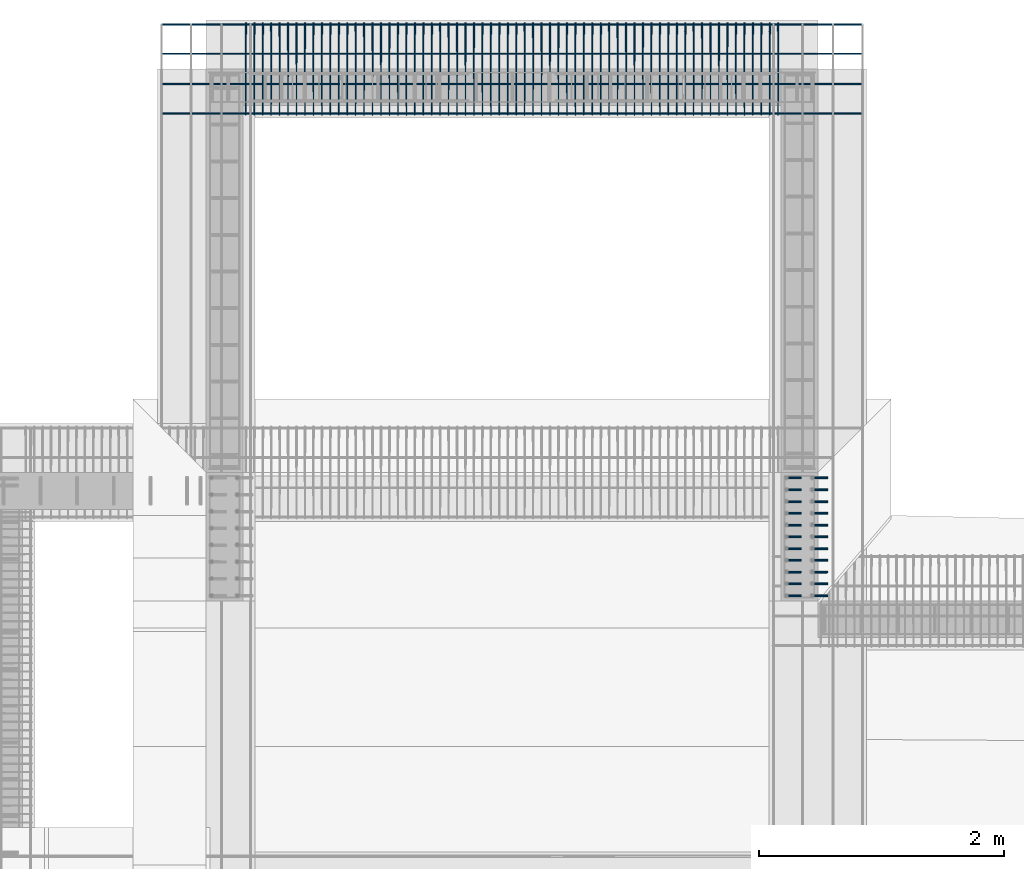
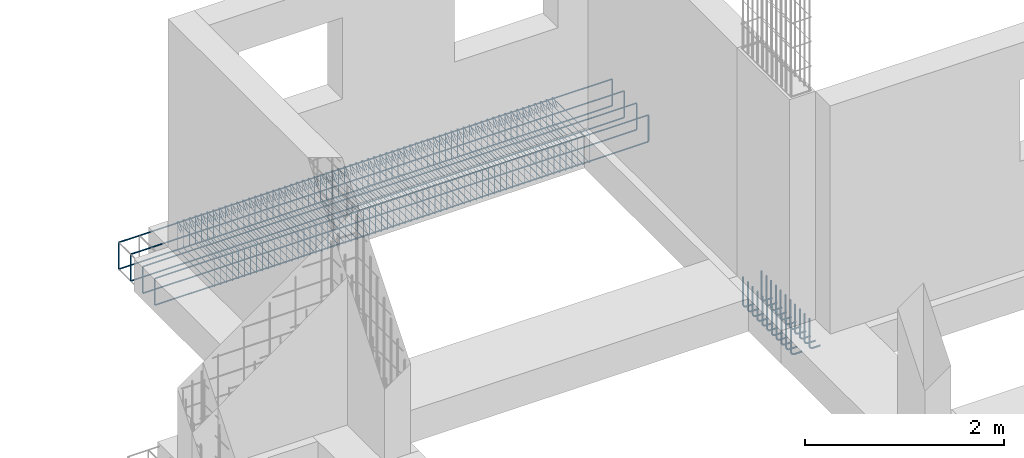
# One storey, part 12 of 15: 3 reinforcing bars.
"""IFC4 building model written with IfcOpenShell, lengths in metres."""

from ifc_helpers import new_model, entity, si_unit, origin_with_axes, place, context, project, spatial, source, transform, mapped, element, save


model = new_model("IFC4")

# Units and contexts
model_context = context("Model", 3, precision=1e-05, world=origin_with_axes())
ifc_project = project(units=[si_unit("LENGTHUNIT", "METRE"), si_unit("AREAUNIT", "SQUARE_METRE"), si_unit("VOLUMEUNIT", "CUBIC_METRE"), si_unit("MASSUNIT", "GRAM", prefix="KILO"), si_unit("TIMEUNIT", "SECOND"), si_unit("PLANEANGLEUNIT", "RADIAN"), si_unit("SOLIDANGLEUNIT", "STERADIAN"), si_unit("THERMODYNAMICTEMPERATUREUNIT", "DEGREE_CELSIUS")], contexts=[model_context])

# Site, building, storey
placement_1 = place(None, origin_with_axes())
site = spatial("IfcSite", under=ifc_project, at=placement_1, Name="Italia", CompositionType="ELEMENT")
building = spatial("IfcBuilding", under=site, at=placement_1, Name="Bifamiliare", CompositionType="ELEMENT")
storey = spatial("IfcBuildingStorey", under=building, at=placement_1, Name="Storey 0", CompositionType="ELEMENT", Elevation=0.0)

# Reinforcing bars
shared_shape_1 = source(origin_with_axes(), model_context, "Body", "AdvancedSweptSolid", [
    entity("IfcSweptDiskSolid", entity("IfcIndexedPolyCurve", entity("IfcCartesianPointList3D", [[10.882, 12.557, -0.375], [10.797, 12.557, -0.375], [10.7817, 12.557, -0.371955], [10.7687, 12.557, -0.363284], [10.76, 12.557, -0.350307], [10.757, 12.557, -0.335], [10.757, 12.557, 0.0]]), [entity("IfcLineIndex", [1, 2]), entity("IfcLineIndex", [2, 3]), entity("IfcLineIndex", [3, 4]), entity("IfcLineIndex", [4, 5]), entity("IfcLineIndex", [5, 6]), entity("IfcLineIndex", [6, 7])], False), 0.01),
])
placement_2 = place(placement_1, origin_with_axes())
reinforcing_bar_1_placement = place(placement_2, origin_with_axes())
element("IfcReinforcingBar", 1, at=reinforcing_bar_1_placement, inside=storey, BarLength=0.482429, CrossSectionArea=0.00031416, NominalDiameter=0.02, context=model_context, shape_type="MappedRepresentation", body=[
    mapped(shared_shape_1, transform((0.0, -0.964001, 0.0), x_axis=(1.0, 0.0, 0.0), y_axis=(0.0, 1.0, 0.0), z_axis=(0.0, 0.0, 1.0), scale=1.0)),
    mapped(shared_shape_1, transform((0.0, -0.866, 0.0), x_axis=(1.0, 0.0, 0.0), y_axis=(0.0, 1.0, 0.0), z_axis=(0.0, 0.0, 1.0), scale=1.0)),
    mapped(shared_shape_1, transform((0.0, -0.674001, 0.0), x_axis=(1.0, 0.0, 0.0), y_axis=(0.0, 1.0, 0.0), z_axis=(0.0, 0.0, 1.0), scale=1.0)),
    mapped(shared_shape_1, transform((0.0, -0.578, 0.0), x_axis=(1.0, 0.0, 0.0), y_axis=(0.0, 1.0, 0.0), z_axis=(0.0, 0.0, 1.0), scale=1.0)),
    mapped(shared_shape_1, transform((0.0, -0.386001, 0.0), x_axis=(1.0, 0.0, 0.0), y_axis=(0.0, 1.0, 0.0), z_axis=(0.0, 0.0, 1.0), scale=1.0)),
    mapped(shared_shape_1, transform((0.0, -0.77, 0.0), x_axis=(1.0, 0.0, 0.0), y_axis=(0.0, 1.0, 0.0), z_axis=(0.0, 0.0, 1.0), scale=1.0)),
    mapped(shared_shape_1, transform((0.0, -0.0980005, 0.0), x_axis=(1.0, 0.0, 0.0), y_axis=(0.0, 1.0, 0.0), z_axis=(0.0, 0.0, 1.0), scale=1.0)),
    mapped(shared_shape_1, transform((0.0, -0.482, 0.0), x_axis=(1.0, 0.0, 0.0), y_axis=(0.0, 1.0, 0.0), z_axis=(0.0, 0.0, 1.0), scale=1.0)),
    mapped(shared_shape_1, transform((0.0, -0.29, 0.0), x_axis=(1.0, 0.0, 0.0), y_axis=(0.0, 1.0, 0.0), z_axis=(0.0, 0.0, 1.0), scale=1.0)),
    mapped(shared_shape_1, transform((0.0, -0.194, 0.0), x_axis=(1.0, 0.0, 0.0), y_axis=(0.0, 1.0, 0.0), z_axis=(0.0, 0.0, 1.0), scale=1.0)),
    mapped(shared_shape_1, transform((0.0, 0.0, 0.0), x_axis=(1.0, 0.0, 0.0), y_axis=(0.0, 1.0, 0.0), z_axis=(0.0, 0.0, 1.0), scale=1.0)),
    mapped(shared_shape_1, transform((-0.214001, 0.0, 0.0), x_axis=(1.0, 0.0, 0.0), y_axis=(0.0, 1.0, 0.0), z_axis=(0.0, 0.0, 1.0), scale=1.0)),
    mapped(shared_shape_1, transform((-0.214001, -0.194, 0.0), x_axis=(1.0, 0.0, 0.0), y_axis=(0.0, 1.0, 0.0), z_axis=(0.0, 0.0, 1.0), scale=1.0)),
    mapped(shared_shape_1, transform((-0.214001, -0.29, 0.0), x_axis=(1.0, 0.0, 0.0), y_axis=(0.0, 1.0, 0.0), z_axis=(0.0, 0.0, 1.0), scale=1.0)),
    mapped(shared_shape_1, transform((-0.214001, -0.482, 0.0), x_axis=(1.0, 0.0, 0.0), y_axis=(0.0, 1.0, 0.0), z_axis=(0.0, 0.0, 1.0), scale=1.0)),
    mapped(shared_shape_1, transform((-0.214001, -0.0980005, 0.0), x_axis=(1.0, 0.0, 0.0), y_axis=(0.0, 1.0, 0.0), z_axis=(0.0, 0.0, 1.0), scale=1.0)),
    mapped(shared_shape_1, transform((-0.214001, -0.77, 0.0), x_axis=(1.0, 0.0, 0.0), y_axis=(0.0, 1.0, 0.0), z_axis=(0.0, 0.0, 1.0), scale=1.0)),
    mapped(shared_shape_1, transform((-0.214001, -0.386001, 0.0), x_axis=(1.0, 0.0, 0.0), y_axis=(0.0, 1.0, 0.0), z_axis=(0.0, 0.0, 1.0), scale=1.0)),
    mapped(shared_shape_1, transform((-0.214001, -0.578, 0.0), x_axis=(1.0, 0.0, 0.0), y_axis=(0.0, 1.0, 0.0), z_axis=(0.0, 0.0, 1.0), scale=1.0)),
    mapped(shared_shape_1, transform((-0.214001, -0.674001, 0.0), x_axis=(1.0, 0.0, 0.0), y_axis=(0.0, 1.0, 0.0), z_axis=(0.0, 0.0, 1.0), scale=1.0)),
    mapped(shared_shape_1, transform((-0.214001, -0.866, 0.0), x_axis=(1.0, 0.0, 0.0), y_axis=(0.0, 1.0, 0.0), z_axis=(0.0, 0.0, 1.0), scale=1.0)),
    mapped(shared_shape_1, transform((-0.214001, -0.964001, 0.0), x_axis=(1.0, 0.0, 0.0), y_axis=(0.0, 1.0, 0.0), z_axis=(0.0, 0.0, 1.0), scale=1.0)),
])
shared_shape_2 = source(origin_with_axes(), model_context, "Body", "AdvancedSweptSolid", [
    entity("IfcSweptDiskSolid", entity("IfcIndexedPolyCurve", entity("IfcCartesianPointList3D", [[6.12, 16.2053, -0.115711], [6.12035, 16.2731, -0.0479289], [6.12037, 16.276, -0.0408578], [6.1204, 16.276, -0.034], [6.12041, 16.2752, -0.0301732], [6.12043, 16.2731, -0.0269289], [6.12044, 16.2698, -0.0247612], [6.12045, 16.266, -0.024], [6.12309, 15.534, -0.024], [6.12311, 15.5302, -0.0247612], [6.12312, 15.5269, -0.0269289], [6.12314, 15.5248, -0.0301732], [6.12315, 15.524, -0.034], [6.12435, 15.524, -0.366], [6.12436, 15.5248, -0.369827], [6.12437, 15.5269, -0.373071], [6.12439, 15.5302, -0.375239], [6.1244, 15.534, -0.376], [6.12704, 16.266, -0.376], [6.12705, 16.2698, -0.375239], [6.12707, 16.2731, -0.373071], [6.12708, 16.2752, -0.369827], [6.1271, 16.276, -0.366], [6.12829, 16.276, -0.034], [6.12831, 16.2752, -0.0301732], [6.12832, 16.2731, -0.0269289], [6.12833, 16.2698, -0.0247612], [6.12835, 16.266, -0.024], [6.12837, 16.2591, -0.024], [6.1284, 16.2521, -0.0269289], [6.12875, 16.1843, -0.0947113]]), [entity("IfcLineIndex", [1, 2]), entity("IfcLineIndex", [2, 3]), entity("IfcLineIndex", [3, 4]), entity("IfcLineIndex", [4, 5]), entity("IfcLineIndex", [5, 6]), entity("IfcLineIndex", [6, 7]), entity("IfcLineIndex", [7, 8]), entity("IfcLineIndex", [8, 9]), entity("IfcLineIndex", [9, 10]), entity("IfcLineIndex", [10, 11]), entity("IfcLineIndex", [11, 12]), entity("IfcLineIndex", [12, 13]), entity("IfcLineIndex", [13, 14]), entity("IfcLineIndex", [14, 15]), entity("IfcLineIndex", [15, 16]), entity("IfcLineIndex", [16, 17]), entity("IfcLineIndex", [17, 18]), entity("IfcLineIndex", [18, 19]), entity("IfcLineIndex", [19, 20]), entity("IfcLineIndex", [20, 21]), entity("IfcLineIndex", [21, 22]), entity("IfcLineIndex", [22, 23]), entity("IfcLineIndex", [23, 24]), entity("IfcLineIndex", [24, 25]), entity("IfcLineIndex", [25, 26]), entity("IfcLineIndex", [26, 27]), entity("IfcLineIndex", [27, 28]), entity("IfcLineIndex", [28, 29]), entity("IfcLineIndex", [29, 30]), entity("IfcLineIndex", [30, 31])], False), 0.004),
])
reinforcing_bar_2_placement = place(placement_2, origin_with_axes())
element("IfcReinforcingBar", 2, at=reinforcing_bar_2_placement, inside=storey, BarLength=2.42679, CrossSectionArea=5.0265e-05, NominalDiameter=0.008, context=model_context, shape_type="MappedRepresentation", body=[
    mapped(shared_shape_2, transform((1.45067, 0.0, 0.0), x_axis=(1.0, 0.0, 0.0), y_axis=(0.0, 1.0, 0.0), z_axis=(0.0, 0.0, 1.0), scale=1.0)),
    mapped(shared_shape_2, transform((1.38159, 0.0, 0.0), x_axis=(1.0, 0.0, 0.0), y_axis=(0.0, 1.0, 0.0), z_axis=(0.0, 0.0, 1.0), scale=1.0)),
    mapped(shared_shape_2, transform((1.58882, 0.0, 0.0), x_axis=(1.0, 0.0, 0.0), y_axis=(0.0, 1.0, 0.0), z_axis=(0.0, 0.0, 1.0), scale=1.0)),
    mapped(shared_shape_2, transform((1.51975, 0.0, 0.0), x_axis=(1.0, 0.0, 0.0), y_axis=(0.0, 1.0, 0.0), z_axis=(0.0, 0.0, 1.0), scale=1.0)),
    mapped(shared_shape_2, transform((1.17435, 0.0, 0.0), x_axis=(1.0, 0.0, 0.0), y_axis=(0.0, 1.0, 0.0), z_axis=(0.0, 0.0, 1.0), scale=1.0)),
    mapped(shared_shape_2, transform((1.10527, 0.0, 0.0), x_axis=(1.0, 0.0, 0.0), y_axis=(0.0, 1.0, 0.0), z_axis=(0.0, 0.0, 1.0), scale=1.0)),
    mapped(shared_shape_2, transform((1.31251, 0.0, 0.0), x_axis=(1.0, 0.0, 0.0), y_axis=(0.0, 1.0, 0.0), z_axis=(0.0, 0.0, 1.0), scale=1.0)),
    mapped(shared_shape_2, transform((1.24343, 0.0, 0.0), x_axis=(1.0, 0.0, 0.0), y_axis=(0.0, 1.0, 0.0), z_axis=(0.0, 0.0, 1.0), scale=1.0)),
    mapped(shared_shape_2, transform((2.0035, -7.62939e-05, 2.94149e-05), x_axis=(1.0, 1.20889e-05, 0.0), y_axis=(-1.2009e-05, 1.0, 0.0), z_axis=(0.0, 0.0, 1.0), scale=1.0)),
    mapped(shared_shape_2, transform((1.93442, -7.62939e-05, 2.94149e-05), x_axis=(1.0, 1.20889e-05, 0.0), y_axis=(-1.2009e-05, 1.0, 0.0), z_axis=(0.0, 0.0, 1.0), scale=1.0)),
    mapped(shared_shape_2, transform((2.14166, -7.62939e-05, 2.94149e-05), x_axis=(1.0, 1.20889e-05, 0.0), y_axis=(-1.2009e-05, 1.0, 0.0), z_axis=(0.0, 0.0, 1.0), scale=1.0)),
    mapped(shared_shape_2, transform((2.07258, -7.62939e-05, 2.94149e-05), x_axis=(1.0, 1.20889e-05, 0.0), y_axis=(-1.2009e-05, 1.0, 0.0), z_axis=(0.0, 0.0, 1.0), scale=1.0)),
    mapped(shared_shape_2, transform((1.72698, 0.0, 0.0), x_axis=(1.0, 0.0, 0.0), y_axis=(0.0, 1.0, 0.0), z_axis=(0.0, 0.0, 1.0), scale=1.0)),
    mapped(shared_shape_2, transform((1.6579, 0.0, 0.0), x_axis=(1.0, 0.0, 0.0), y_axis=(0.0, 1.0, 0.0), z_axis=(0.0, 0.0, 1.0), scale=1.0)),
    mapped(shared_shape_2, transform((1.86514, 0.0, 0.0), x_axis=(1.0, 0.0, 0.0), y_axis=(0.0, 1.0, 0.0), z_axis=(0.0, 0.0, 1.0), scale=1.0)),
    mapped(shared_shape_2, transform((1.79606, 0.0, 0.0), x_axis=(1.0, 0.0, 0.0), y_axis=(0.0, 1.0, 0.0), z_axis=(0.0, 0.0, 1.0), scale=1.0)),
    mapped(shared_shape_2, transform((0.345397, 0.0, 0.0), x_axis=(1.0, 0.0, 0.0), y_axis=(0.0, 1.0, 0.0), z_axis=(0.0, 0.0, 1.0), scale=1.0)),
    mapped(shared_shape_2, transform((0.276317, 0.0, 0.0), x_axis=(1.0, 0.0, 0.0), y_axis=(0.0, 1.0, 0.0), z_axis=(0.0, 0.0, 1.0), scale=1.0)),
    mapped(shared_shape_2, transform((0.483555, 0.0, 0.0), x_axis=(1.0, 0.0, 0.0), y_axis=(0.0, 1.0, 0.0), z_axis=(0.0, 0.0, 1.0), scale=1.0)),
    mapped(shared_shape_2, transform((0.414475, 0.0, 0.0), x_axis=(1.0, 0.0, 0.0), y_axis=(0.0, 1.0, 0.0), z_axis=(0.0, 0.0, 1.0), scale=1.0)),
    mapped(shared_shape_2, transform((0.0690789, 0.0, 0.0), x_axis=(1.0, 0.0, 0.0), y_axis=(0.0, 1.0, 0.0), z_axis=(0.0, 0.0, 1.0), scale=1.0)),
    mapped(shared_shape_2, transform((0.0, 0.0, 0.0), x_axis=(1.0, 0.0, 0.0), y_axis=(0.0, 1.0, 0.0), z_axis=(0.0, 0.0, 1.0), scale=1.0)),
    mapped(shared_shape_2, transform((0.207238, 0.0, 0.0), x_axis=(1.0, 0.0, 0.0), y_axis=(0.0, 1.0, 0.0), z_axis=(0.0, 0.0, 1.0), scale=1.0)),
    mapped(shared_shape_2, transform((0.138158, 0.0, 0.0), x_axis=(1.0, 0.0, 0.0), y_axis=(0.0, 1.0, 0.0), z_axis=(0.0, 0.0, 1.0), scale=1.0)),
    mapped(shared_shape_2, transform((0.898031, 0.0, 0.0), x_axis=(1.0, 0.0, 0.0), y_axis=(0.0, 1.0, 0.0), z_axis=(0.0, 0.0, 1.0), scale=1.0)),
    mapped(shared_shape_2, transform((0.828952, 0.0, 0.0), x_axis=(1.0, 0.0, 0.0), y_axis=(0.0, 1.0, 0.0), z_axis=(0.0, 0.0, 1.0), scale=1.0)),
    mapped(shared_shape_2, transform((1.03619, 0.0, 0.0), x_axis=(1.0, 0.0, 0.0), y_axis=(0.0, 1.0, 0.0), z_axis=(0.0, 0.0, 1.0), scale=1.0)),
    mapped(shared_shape_2, transform((0.96711, 0.0, 0.0), x_axis=(1.0, 0.0, 0.0), y_axis=(0.0, 1.0, 0.0), z_axis=(0.0, 0.0, 1.0), scale=1.0)),
    mapped(shared_shape_2, transform((0.621714, 0.0, 0.0), x_axis=(1.0, 0.0, 0.0), y_axis=(0.0, 1.0, 0.0), z_axis=(0.0, 0.0, 1.0), scale=1.0)),
    mapped(shared_shape_2, transform((0.552634, 0.0, 0.0), x_axis=(1.0, 0.0, 0.0), y_axis=(0.0, 1.0, 0.0), z_axis=(0.0, 0.0, 1.0), scale=1.0)),
    mapped(shared_shape_2, transform((0.759872, 0.0, 0.0), x_axis=(1.0, 0.0, 0.0), y_axis=(0.0, 1.0, 0.0), z_axis=(0.0, 0.0, 1.0), scale=1.0)),
    mapped(shared_shape_2, transform((0.690793, 0.0, 0.0), x_axis=(1.0, 0.0, 0.0), y_axis=(0.0, 1.0, 0.0), z_axis=(0.0, 0.0, 1.0), scale=1.0)),
    mapped(shared_shape_2, transform((3.6614, -7.62939e-05, 2.94149e-05), x_axis=(1.0, 1.20889e-05, 0.0), y_axis=(-1.2009e-05, 1.0, 0.0), z_axis=(0.0, 0.0, 1.0), scale=1.0)),
    mapped(shared_shape_2, transform((3.59232, -7.62939e-05, 2.94149e-05), x_axis=(1.0, 1.20889e-05, 0.0), y_axis=(-1.2009e-05, 1.0, 0.0), z_axis=(0.0, 0.0, 1.0), scale=1.0)),
    mapped(shared_shape_2, transform((3.79956, -7.62939e-05, 2.94149e-05), x_axis=(1.0, 1.20889e-05, 0.0), y_axis=(-1.2009e-05, 1.0, 0.0), z_axis=(0.0, 0.0, 1.0), scale=1.0)),
    mapped(shared_shape_2, transform((3.73048, -7.62939e-05, 2.94149e-05), x_axis=(1.0, 1.20889e-05, 0.0), y_axis=(-1.2009e-05, 1.0, 0.0), z_axis=(0.0, 0.0, 1.0), scale=1.0)),
    mapped(shared_shape_2, transform((3.38509, -7.62939e-05, 2.94149e-05), x_axis=(1.0, 1.20889e-05, 0.0), y_axis=(-1.2009e-05, 1.0, 0.0), z_axis=(0.0, 0.0, 1.0), scale=1.0)),
    mapped(shared_shape_2, transform((3.31601, -7.62939e-05, 2.94149e-05), x_axis=(1.0, 1.20889e-05, 0.0), y_axis=(-1.2009e-05, 1.0, 0.0), z_axis=(0.0, 0.0, 1.0), scale=1.0)),
    mapped(shared_shape_2, transform((3.52324, -7.62939e-05, 2.94149e-05), x_axis=(1.0, 1.20889e-05, 0.0), y_axis=(-1.2009e-05, 1.0, 0.0), z_axis=(0.0, 0.0, 1.0), scale=1.0)),
    mapped(shared_shape_2, transform((3.45416, -7.62939e-05, 2.94149e-05), x_axis=(1.0, 1.20889e-05, 0.0), y_axis=(-1.2009e-05, 1.0, 0.0), z_axis=(0.0, 0.0, 1.0), scale=1.0)),
    mapped(shared_shape_2, transform((4.21404, -7.62939e-05, 2.94149e-05), x_axis=(1.0, 1.20889e-05, 0.0), y_axis=(-1.2009e-05, 1.0, 0.0), z_axis=(0.0, 0.0, 1.0), scale=1.0)),
    mapped(shared_shape_2, transform((4.14496, -7.62939e-05, 2.94149e-05), x_axis=(1.0, 1.20889e-05, 0.0), y_axis=(-1.2009e-05, 1.0, 0.0), z_axis=(0.0, 0.0, 1.0), scale=1.0)),
    mapped(shared_shape_2, transform((4.3522, -7.62939e-05, 2.94149e-05), x_axis=(1.0, 1.20889e-05, 0.0), y_axis=(-1.2009e-05, 1.0, 0.0), z_axis=(0.0, 0.0, 1.0), scale=1.0)),
    mapped(shared_shape_2, transform((4.28312, -7.62939e-05, 2.94149e-05), x_axis=(1.0, 1.20889e-05, 0.0), y_axis=(-1.2009e-05, 1.0, 0.0), z_axis=(0.0, 0.0, 1.0), scale=1.0)),
    mapped(shared_shape_2, transform((3.93772, -7.62939e-05, 2.94149e-05), x_axis=(1.0, 1.20889e-05, 0.0), y_axis=(-1.2009e-05, 1.0, 0.0), z_axis=(0.0, 0.0, 1.0), scale=1.0)),
    mapped(shared_shape_2, transform((3.86864, -7.62939e-05, 2.94149e-05), x_axis=(1.0, 1.20889e-05, 0.0), y_axis=(-1.2009e-05, 1.0, 0.0), z_axis=(0.0, 0.0, 1.0), scale=1.0)),
    mapped(shared_shape_2, transform((4.07588, -7.62939e-05, 2.94149e-05), x_axis=(1.0, 1.20889e-05, 0.0), y_axis=(-1.2009e-05, 1.0, 0.0), z_axis=(0.0, 0.0, 1.0), scale=1.0)),
    mapped(shared_shape_2, transform((4.0068, -7.62939e-05, 2.94149e-05), x_axis=(1.0, 1.20889e-05, 0.0), y_axis=(-1.2009e-05, 1.0, 0.0), z_axis=(0.0, 0.0, 1.0), scale=1.0)),
    mapped(shared_shape_2, transform((2.55613, -7.62939e-05, 2.94149e-05), x_axis=(1.0, 1.20889e-05, 0.0), y_axis=(-1.2009e-05, 1.0, 0.0), z_axis=(0.0, 0.0, 1.0), scale=1.0)),
    mapped(shared_shape_2, transform((2.48705, -7.62939e-05, 2.94149e-05), x_axis=(1.0, 1.20889e-05, 0.0), y_axis=(-1.2009e-05, 1.0, 0.0), z_axis=(0.0, 0.0, 1.0), scale=1.0)),
    mapped(shared_shape_2, transform((2.69429, -7.62939e-05, 2.94149e-05), x_axis=(1.0, 1.20889e-05, 0.0), y_axis=(-1.2009e-05, 1.0, 0.0), z_axis=(0.0, 0.0, 1.0), scale=1.0)),
    mapped(shared_shape_2, transform((2.62521, -7.62939e-05, 2.94149e-05), x_axis=(1.0, 1.20889e-05, 0.0), y_axis=(-1.2009e-05, 1.0, 0.0), z_axis=(0.0, 0.0, 1.0), scale=1.0)),
    mapped(shared_shape_2, transform((2.27981, -7.62939e-05, 2.94149e-05), x_axis=(1.0, 1.20889e-05, 0.0), y_axis=(-1.2009e-05, 1.0, 0.0), z_axis=(0.0, 0.0, 1.0), scale=1.0)),
    mapped(shared_shape_2, transform((2.21074, -7.62939e-05, 2.94149e-05), x_axis=(1.0, 1.20889e-05, 0.0), y_axis=(-1.2009e-05, 1.0, 0.0), z_axis=(0.0, 0.0, 1.0), scale=1.0)),
    mapped(shared_shape_2, transform((2.41797, -7.62939e-05, 2.94149e-05), x_axis=(1.0, 1.20889e-05, 0.0), y_axis=(-1.2009e-05, 1.0, 0.0), z_axis=(0.0, 0.0, 1.0), scale=1.0)),
    mapped(shared_shape_2, transform((2.34889, -7.62939e-05, 2.94149e-05), x_axis=(1.0, 1.20889e-05, 0.0), y_axis=(-1.2009e-05, 1.0, 0.0), z_axis=(0.0, 0.0, 1.0), scale=1.0)),
    mapped(shared_shape_2, transform((3.10877, -7.62939e-05, 2.94149e-05), x_axis=(1.0, 1.20889e-05, 0.0), y_axis=(-1.2009e-05, 1.0, 0.0), z_axis=(0.0, 0.0, 1.0), scale=1.0)),
    mapped(shared_shape_2, transform((3.03969, -7.62939e-05, 2.94149e-05), x_axis=(1.0, 1.20889e-05, 0.0), y_axis=(-1.2009e-05, 1.0, 0.0), z_axis=(0.0, 0.0, 1.0), scale=1.0)),
    mapped(shared_shape_2, transform((3.24693, -7.62939e-05, 2.94149e-05), x_axis=(1.0, 1.20889e-05, 0.0), y_axis=(-1.2009e-05, 1.0, 0.0), z_axis=(0.0, 0.0, 1.0), scale=1.0)),
    mapped(shared_shape_2, transform((3.17785, -7.62939e-05, 2.94149e-05), x_axis=(1.0, 1.20889e-05, 0.0), y_axis=(-1.2009e-05, 1.0, 0.0), z_axis=(0.0, 0.0, 1.0), scale=1.0)),
    mapped(shared_shape_2, transform((2.83245, -7.62939e-05, 2.94149e-05), x_axis=(1.0, 1.20889e-05, 0.0), y_axis=(-1.2009e-05, 1.0, 0.0), z_axis=(0.0, 0.0, 1.0), scale=1.0)),
    mapped(shared_shape_2, transform((2.76337, -7.62939e-05, 2.94149e-05), x_axis=(1.0, 1.20889e-05, 0.0), y_axis=(-1.2009e-05, 1.0, 0.0), z_axis=(0.0, 0.0, 1.0), scale=1.0)),
    mapped(shared_shape_2, transform((2.97061, -7.62939e-05, 2.94149e-05), x_axis=(1.0, 1.20889e-05, 0.0), y_axis=(-1.2009e-05, 1.0, 0.0), z_axis=(0.0, 0.0, 1.0), scale=1.0)),
    mapped(shared_shape_2, transform((2.90153, -7.62939e-05, 2.94149e-05), x_axis=(1.0, 1.20889e-05, 0.0), y_axis=(-1.2009e-05, 1.0, 0.0), z_axis=(0.0, 0.0, 1.0), scale=1.0)),
])
shared_shape_3 = source(origin_with_axes(), model_context, "Body", "AdvancedSweptSolid", [
    entity("IfcSweptDiskSolid", entity("IfcIndexedPolyCurve", entity("IfcCartesianPointList3D", [[5.435, 15.536, -0.114], [5.435, 15.536, -0.354], [5.43576, 15.536, -0.357827], [5.43793, 15.536, -0.361071], [5.44117, 15.536, -0.363239], [5.445, 15.536, -0.364], [11.155, 15.536, -0.364], [11.1588, 15.536, -0.363239], [11.1621, 15.536, -0.361071], [11.1642, 15.536, -0.357827], [11.165, 15.536, -0.354], [11.165, 15.536, -0.114]]), [entity("IfcLineIndex", [1, 2]), entity("IfcLineIndex", [2, 3]), entity("IfcLineIndex", [3, 4]), entity("IfcLineIndex", [4, 5]), entity("IfcLineIndex", [5, 6]), entity("IfcLineIndex", [6, 7]), entity("IfcLineIndex", [7, 8]), entity("IfcLineIndex", [8, 9]), entity("IfcLineIndex", [9, 10]), entity("IfcLineIndex", [10, 11]), entity("IfcLineIndex", [11, 12])], False), 0.008),
])
reinforcing_bar_3_placement = place(placement_2, origin_with_axes())
element("IfcReinforcingBar", 3, at=reinforcing_bar_3_placement, inside=storey, BarLength=6.22121, CrossSectionArea=0.00020106, NominalDiameter=0.016, context=model_context, shape_type="MappedRepresentation", body=[
    mapped(shared_shape_3, transform((0.0, 31.8, -0.4), x_axis=(1.0, 0.0, 0.0), y_axis=(0.0, -1.0, 0.0), z_axis=(0.0, 0.0, -1.0), scale=1.0)),
    mapped(shared_shape_3, transform((0.0, 31.072, -0.4), x_axis=(1.0, 0.0, 0.0), y_axis=(0.0, -1.0, 0.0), z_axis=(0.0, 0.0, -1.0), scale=1.0)),
    mapped(shared_shape_3, transform((0.0, 31.56, -0.4), x_axis=(1.0, 0.0, 0.0), y_axis=(0.0, -1.0, 0.0), z_axis=(0.0, 0.0, -1.0), scale=1.0)),
    mapped(shared_shape_3, transform((0.0, 31.312, -0.4), x_axis=(1.0, 0.0, 0.0), y_axis=(0.0, -1.0, 0.0), z_axis=(0.0, 0.0, -1.0), scale=1.0)),
    mapped(shared_shape_3, transform((0.0, 0.728, 0.0), x_axis=(1.0, 0.0, 0.0), y_axis=(0.0, 1.0, 0.0), z_axis=(0.0, 0.0, 1.0), scale=1.0)),
    mapped(shared_shape_3, transform((0.0, 0.0, 0.0), x_axis=(1.0, 0.0, 0.0), y_axis=(0.0, 1.0, 0.0), z_axis=(0.0, 0.0, 1.0), scale=1.0)),
    mapped(shared_shape_3, transform((0.0, 0.488, 0.0), x_axis=(1.0, 0.0, 0.0), y_axis=(0.0, 1.0, 0.0), z_axis=(0.0, 0.0, 1.0), scale=1.0)),
    mapped(shared_shape_3, transform((0.0, 0.24, 0.0), x_axis=(1.0, 0.0, 0.0), y_axis=(0.0, 1.0, 0.0), z_axis=(0.0, 0.0, 1.0), scale=1.0)),
])

save(model, "model.ifc")
